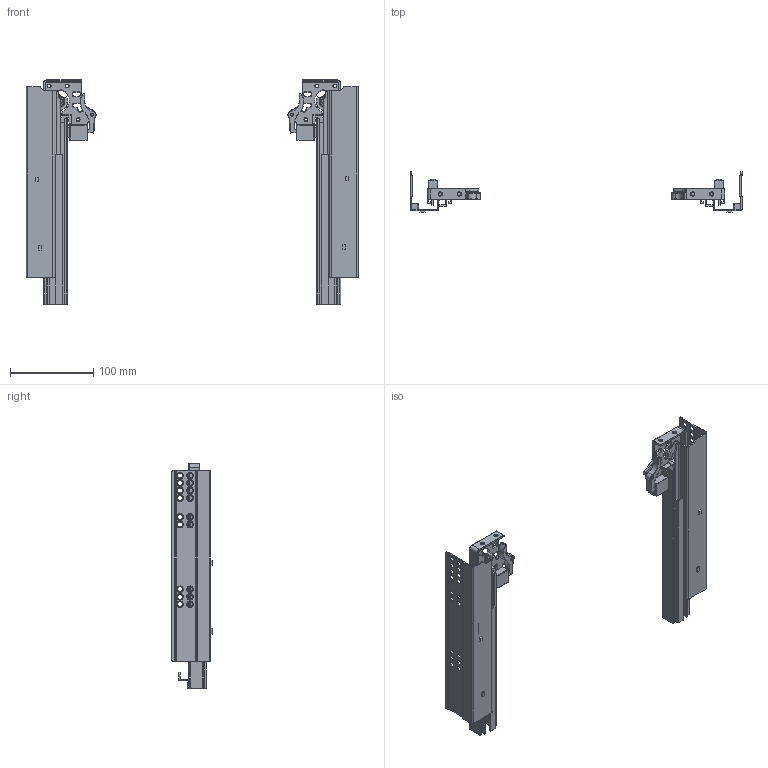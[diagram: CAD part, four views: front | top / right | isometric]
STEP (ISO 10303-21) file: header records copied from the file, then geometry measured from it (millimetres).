
FILE_DESCRIPTION(/* description */ (''),/* implementation_level */ '2;1');
FILE_NAME(/* name */ 'D:\$Workingspace\Designs\Katalog\Cadsoft\GTV Prowadnice\Prowadnice GTV_bryły 3D\PB-0FPO-270.stp',/* time_stamp */ '2016-11-21T11:50:39+01:00',/* author */ ('tomaszw'),/* organization */ (''),/* preprocessor_version */ 'ST-DEVELOPER v16.1',/* originating_system */ 'Autodesk Inventor 2016',/* authorisation */ '');
FILE_SCHEMA (('AUTOMOTIVE_DESIGN { 1 0 10303 214 3 1 1 }'));
Length unit declared in the file: millimetre
Products named in the file (9): PB-0FPO-CL-270; PB-0FPO-CR-270; PB-0FPO-DL-270; PB-0FPO-DR-270; PB-0FPO-DWL-270; PB-0FPO-DWR-270; PB-0FPO-SL; PB-0FPO-SR; PB-0FPO
Assembly tree (8 placements, depth 2):
  PB-0FPO
    PB-0FPO-CL-270
    PB-0FPO-CR-270
    PB-0FPO-DL-270
    PB-0FPO-DR-270
    PB-0FPO-DWL-270
    PB-0FPO-DWR-270
    PB-0FPO-SL
    PB-0FPO-SR
Bounding box: 400 x 48.8 x 270 mm (x, y, z)
Volume: 194143.9 mm3; surface area: 227695.4 mm2
Topology: 16 solids, 16 shells, 1858 faces, 4278 edges, 2458 vertices
Faces by surface type: cylinder 782, plane 440, torus 366, sphere 198, cone 36, bspline 36
Full cylindrical faces by diameter (mm): 3 x2, 4 x6, 4.5 x6, 5 x2, 6 x36, 7.889 x2
Entity records: 55641 total; most frequent: CARTESIAN_POINT 11047, DIRECTION 9856, ORIENTED_EDGE 8224, EDGE_CURVE 4112, AXIS2_PLACEMENT_3D 3973, VERTEX_POINT 2416, CIRCLE 2122, EDGE_LOOP 2108
